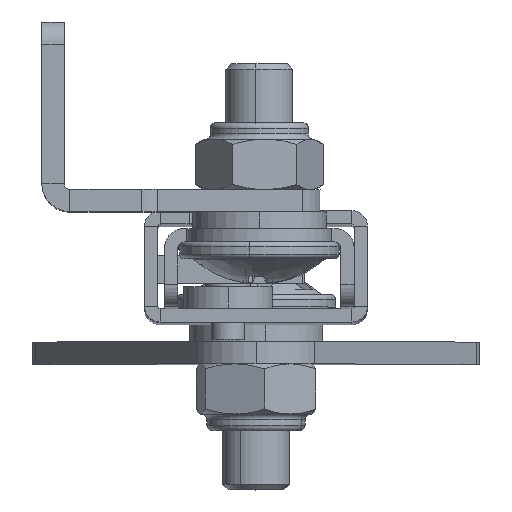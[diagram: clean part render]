
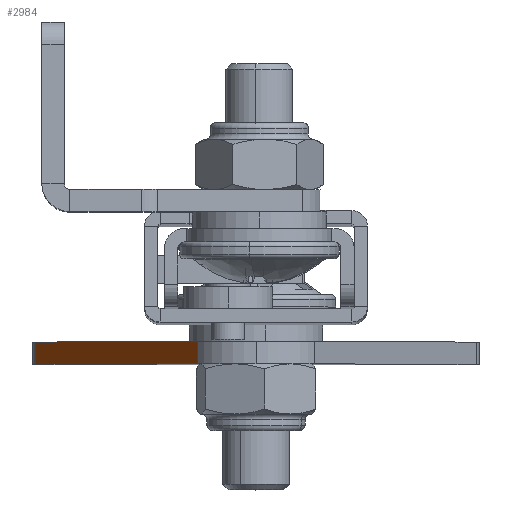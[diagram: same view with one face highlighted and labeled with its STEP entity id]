
A CAD part, top view. The second image highlights one B-rep face of the part: STEP entity #2984.
In plain terms, the highlighted planar face has unit normal (-0.866, 0, 0.5) as drawn and (0.866, 0, -0.5) by its records, which use the part's own axes.
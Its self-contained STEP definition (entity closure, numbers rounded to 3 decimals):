
#229 = PLANE ( 'NONE',  #2532 ) ;
#833 = EDGE_CURVE ( 'NONE', #5237, #7511, #7451, .T. ) ;
#918 = VECTOR ( 'NONE', #8223, 1000. ) ;
#958 = DIRECTION ( 'NONE',  ( -0.866, 0., 0.5 ) ) ;
#1511 = CARTESIAN_POINT ( 'NONE',  ( 19.732, 1., 8.821 ) ) ;
#1528 = CARTESIAN_POINT ( 'NONE',  ( 5.257, 1., -16.25 ) ) ;
#1752 = DIRECTION ( 'NONE',  ( -0.5, 0., -0.866 ) ) ;
#1907 = CARTESIAN_POINT ( 'NONE',  ( 5.257, -1., -16.25 ) ) ;
#2303 = EDGE_CURVE ( 'NONE', #7511, #3270, #3852, .T. ) ;
#2532 = AXIS2_PLACEMENT_3D ( 'NONE', #2978, #958, #5664 ) ;
#2978 = CARTESIAN_POINT ( 'NONE',  ( 5.257, 1., -16.25 ) ) ;
#2984 = ADVANCED_FACE ( 'NONE', ( #6554 ), #229, .F. ) ;
#3270 = VERTEX_POINT ( 'NONE', #1907 ) ;
#3852 = LINE ( 'NONE', #6400, #7221 ) ;
#4010 = EDGE_LOOP ( 'NONE', ( #5651, #4061, #5062, #6741 ) ) ;
#4061 = ORIENTED_EDGE ( 'NONE', *, *, #833, .T. ) ;
#4272 = EDGE_CURVE ( 'NONE', #6042, #3270, #4317, .T. ) ;
#4317 = LINE ( 'NONE', #6627, #7671 ) ;
#4556 = EDGE_CURVE ( 'NONE', #5237, #6042, #5977, .T. ) ;
#4631 = DIRECTION ( 'NONE',  ( 0., -1., 0. ) ) ;
#5062 = ORIENTED_EDGE ( 'NONE', *, *, #2303, .T. ) ;
#5237 = VERTEX_POINT ( 'NONE', #6552 ) ;
#5651 = ORIENTED_EDGE ( 'NONE', *, *, #4556, .F. ) ;
#5664 = DIRECTION ( 'NONE',  ( 0.5, 0., 0.866 ) ) ;
#5977 = LINE ( 'NONE', #1528, #7772 ) ;
#6042 = VERTEX_POINT ( 'NONE', #6888 ) ;
#6235 = DIRECTION ( 'NONE',  ( -0.5, 0., -0.866 ) ) ;
#6400 = CARTESIAN_POINT ( 'NONE',  ( 5.257, -1., -16.25 ) ) ;
#6552 = CARTESIAN_POINT ( 'NONE',  ( 19.732, 1., 8.821 ) ) ;
#6554 = FACE_OUTER_BOUND ( 'NONE', #4010, .T. ) ;
#6627 = CARTESIAN_POINT ( 'NONE',  ( 5.257, 1., -16.25 ) ) ;
#6741 = ORIENTED_EDGE ( 'NONE', *, *, #4272, .F. ) ;
#6888 = CARTESIAN_POINT ( 'NONE',  ( 5.257, 1., -16.25 ) ) ;
#7221 = VECTOR ( 'NONE', #1752, 1000. ) ;
#7451 = LINE ( 'NONE', #1511, #918 ) ;
#7511 = VERTEX_POINT ( 'NONE', #7781 ) ;
#7671 = VECTOR ( 'NONE', #4631, 1000. ) ;
#7772 = VECTOR ( 'NONE', #6235, 1000. ) ;
#7781 = CARTESIAN_POINT ( 'NONE',  ( 19.732, -1., 8.821 ) ) ;
#8223 = DIRECTION ( 'NONE',  ( 0., -1., 0. ) ) ;
